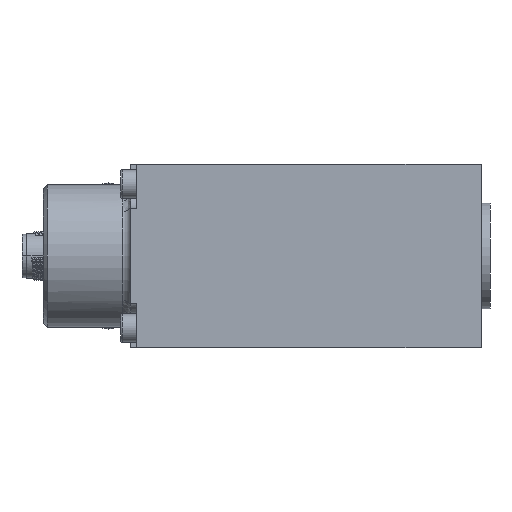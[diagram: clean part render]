
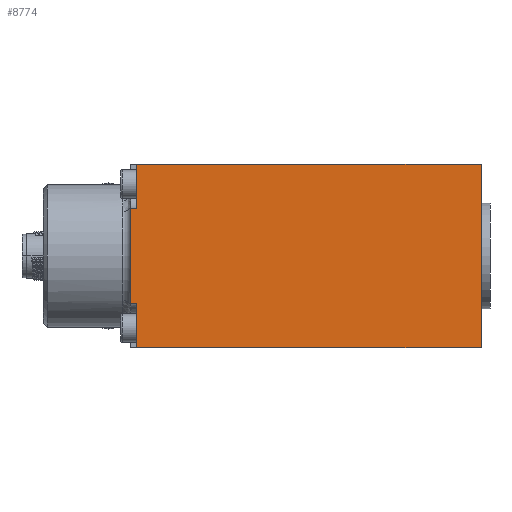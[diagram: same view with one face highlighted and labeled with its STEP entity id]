
A CAD part, front view. The second image highlights one B-rep face of the part: STEP entity #8774.
In plain terms, the highlighted planar face has unit normal (0, -1, 0).
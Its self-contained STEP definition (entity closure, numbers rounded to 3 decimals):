
#2021 = LINE ( 'NONE', #64891, #25390 ) ;
#2310 = AXIS2_PLACEMENT_3D ( 'NONE', #49804, #10271, #79715 ) ;
#5116 = LINE ( 'NONE', #16220, #51668 ) ;
#7127 = LINE ( 'NONE', #16570, #83158 ) ;
#7201 = CARTESIAN_POINT ( 'NONE',  ( 86., -22.5, 22.5 ) ) ;
#8774 = ADVANCED_FACE ( 'NONE', ( #96391 ), #69730, .F. ) ;
#9305 = LINE ( 'NONE', #37830, #59000 ) ;
#10271 = DIRECTION ( 'NONE',  ( 0., 1., 0. ) ) ;
#16220 = CARTESIAN_POINT ( 'NONE',  ( 1.5, -22.5, -11.68 ) ) ;
#16570 = CARTESIAN_POINT ( 'NONE',  ( 86., -22.5, -22.5 ) ) ;
#21815 = VERTEX_POINT ( 'NONE', #87066 ) ;
#21867 = VERTEX_POINT ( 'NONE', #108384 ) ;
#25390 = VECTOR ( 'NONE', #114433, 1000. ) ;
#26568 = DIRECTION ( 'NONE',  ( -1., 0., 0. ) ) ;
#26937 = VECTOR ( 'NONE', #127490, 1000. ) ;
#30046 = LINE ( 'NONE', #125290, #26937 ) ;
#35066 = ORIENTED_EDGE ( 'NONE', *, *, #40829, .T. ) ;
#36280 = VERTEX_POINT ( 'NONE', #114232 ) ;
#37830 = CARTESIAN_POINT ( 'NONE',  ( 1.5, -22.5, -11.68 ) ) ;
#39516 = CARTESIAN_POINT ( 'NONE',  ( 1.5, -22.5, -11.68 ) ) ;
#40423 = EDGE_CURVE ( 'NONE', #62297, #36280, #127091, .T. ) ;
#40484 = VECTOR ( 'NONE', #75750, 1000. ) ;
#40829 = EDGE_CURVE ( 'NONE', #80794, #69793, #113052, .T. ) ;
#41768 = ORIENTED_EDGE ( 'NONE', *, *, #83339, .F. ) ;
#43567 = LINE ( 'NONE', #65788, #40484 ) ;
#43644 = VERTEX_POINT ( 'NONE', #108079 ) ;
#46401 = ORIENTED_EDGE ( 'NONE', *, *, #57077, .F. ) ;
#47963 = VECTOR ( 'NONE', #122813, 1000. ) ;
#49804 = CARTESIAN_POINT ( 'NONE',  ( 86., -22.5, 22.5 ) ) ;
#50467 = ORIENTED_EDGE ( 'NONE', *, *, #83771, .F. ) ;
#51668 = VECTOR ( 'NONE', #75648, 1000. ) ;
#52784 = CARTESIAN_POINT ( 'NONE',  ( 86., -22.5, 22.5 ) ) ;
#53742 = VERTEX_POINT ( 'NONE', #39516 ) ;
#57077 = EDGE_CURVE ( 'NONE', #21815, #21867, #7127, .T. ) ;
#58426 = ORIENTED_EDGE ( 'NONE', *, *, #67490, .F. ) ;
#59000 = VECTOR ( 'NONE', #87274, 1000. ) ;
#61903 = ORIENTED_EDGE ( 'NONE', *, *, #40423, .T. ) ;
#62297 = VERTEX_POINT ( 'NONE', #82420 ) ;
#64891 = CARTESIAN_POINT ( 'NONE',  ( 1.5, -22.5, 11.68 ) ) ;
#65788 = CARTESIAN_POINT ( 'NONE',  ( 86., -22.5, 22.5 ) ) ;
#66302 = EDGE_CURVE ( 'NONE', #43644, #69793, #30046, .T. ) ;
#67490 = EDGE_CURVE ( 'NONE', #53742, #36280, #5116, .T. ) ;
#69730 = PLANE ( 'NONE',  #2310 ) ;
#69793 = VERTEX_POINT ( 'NONE', #114602 ) ;
#73711 = ORIENTED_EDGE ( 'NONE', *, *, #89254, .T. ) ;
#75648 = DIRECTION ( 'NONE',  ( -1., 0., 0. ) ) ;
#75750 = DIRECTION ( 'NONE',  ( 0., 0., -1. ) ) ;
#77395 = ORIENTED_EDGE ( 'NONE', *, *, #66302, .F. ) ;
#79715 = DIRECTION ( 'NONE',  ( 0., 0., 1. ) ) ;
#80794 = VERTEX_POINT ( 'NONE', #7201 ) ;
#82420 = CARTESIAN_POINT ( 'NONE',  ( 0., -22.5, 11.68 ) ) ;
#83158 = VECTOR ( 'NONE', #26568, 1000. ) ;
#83339 = EDGE_CURVE ( 'NONE', #80794, #21815, #43567, .T. ) ;
#83771 = EDGE_CURVE ( 'NONE', #21867, #53742, #9305, .T. ) ;
#87066 = CARTESIAN_POINT ( 'NONE',  ( 86., -22.5, -22.5 ) ) ;
#87274 = DIRECTION ( 'NONE',  ( 0., 0., 1. ) ) ;
#89254 = EDGE_CURVE ( 'NONE', #43644, #62297, #2021, .T. ) ;
#92775 = VECTOR ( 'NONE', #122214, 1000. ) ;
#96391 = FACE_OUTER_BOUND ( 'NONE', #96496, .T. ) ;
#96496 = EDGE_LOOP ( 'NONE', ( #77395, #73711, #61903, #58426, #50467, #46401, #41768, #35066 ) ) ;
#102902 = CARTESIAN_POINT ( 'NONE',  ( 0., -22.5, 22.5 ) ) ;
#108079 = CARTESIAN_POINT ( 'NONE',  ( 1.5, -22.5, 11.68 ) ) ;
#108384 = CARTESIAN_POINT ( 'NONE',  ( 1.5, -22.5, -22.5 ) ) ;
#113052 = LINE ( 'NONE', #52784, #92775 ) ;
#114232 = CARTESIAN_POINT ( 'NONE',  ( 0., -22.5, -11.68 ) ) ;
#114433 = DIRECTION ( 'NONE',  ( -1., 0., 0. ) ) ;
#114602 = CARTESIAN_POINT ( 'NONE',  ( 1.5, -22.5, 22.5 ) ) ;
#122214 = DIRECTION ( 'NONE',  ( -1., 0., 0. ) ) ;
#122813 = DIRECTION ( 'NONE',  ( 0., 0., -1. ) ) ;
#125290 = CARTESIAN_POINT ( 'NONE',  ( 1.5, -22.5, 11.68 ) ) ;
#127091 = LINE ( 'NONE', #102902, #47963 ) ;
#127490 = DIRECTION ( 'NONE',  ( 0., 0., 1. ) ) ;
